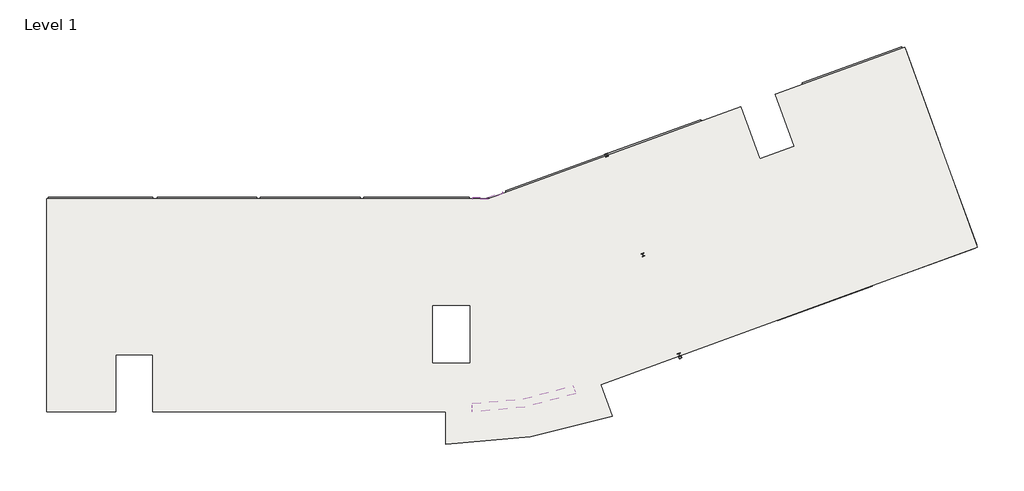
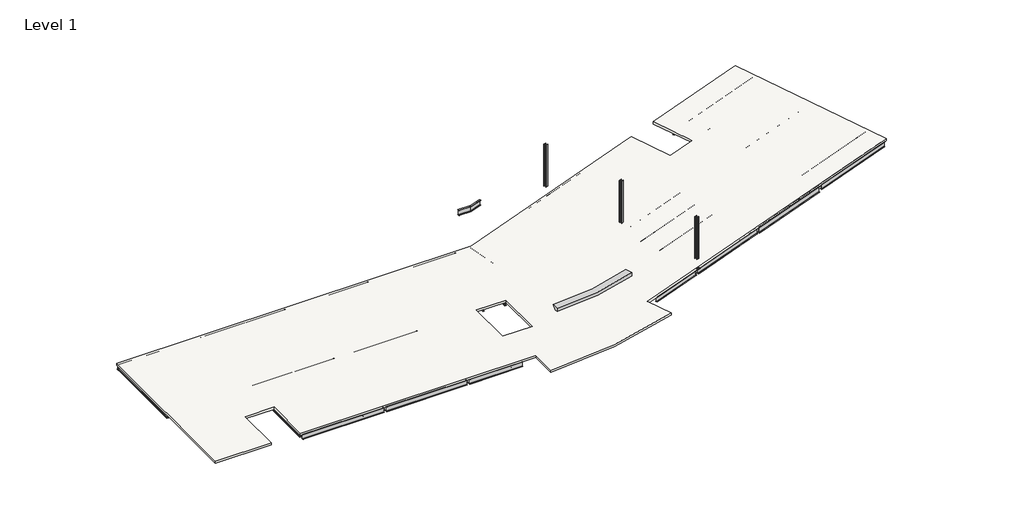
# One storey: 87 beams, 3 columns, 1 proxy, 1 slab.
"""IFC4 building model written with IfcOpenShell, lengths in millimetres."""

from ifc_helpers import new_model, si_unit, point, frame, frame_2d, origin, place, context, project, spatial, polyline, circle_curve, trimmed, segment, composite_curve, outline, extrude, transform, mapped, element, save
from ifc_brep_helpers import plane_surface, cylinder_surface, revolved_surface, advanced_brep
from components import beam_e63ae445, l_unequal_leg_angles_l150x75x12_5957f89b, ub_universal_beams_ub305x127x37_14baedf7, ub_universal_beams_ub305x127x37_f823aa85, ub_universal_beams_ub305x127x37_cdbcbb51, ub_universal_beams_ub305x127x37_8d1efc97, ub_universal_beams_ub305x127x37_2b7a043a, ub_universal_beams_ub305x127x37_8d2b0bf5, ub_universal_beams_ub305x127x37_777f85ab, ub_universal_beams_ub305x127x37_60794b88, ub_universal_beams_ub305x127x37_54dd217e, ub_universal_beams_ub305x127x37_7b5c5eb2, ub_universal_beams_ub305x127x37_99f87efb, ub_universal_beams_ub305x127x37_95b6a02e, ub_universal_beams_ub457x152x67_de37d5a7, ub_universal_beams_ub457x152x67_a95554c7, ub_universal_beams_ub457x152x67_885cc86f, ub_universal_beams_ub457x152x67_c84566a2, ub_universal_beams_ub457x152x67_4841b023, ub_universal_beams_ub457x152x67_bb2d3bd6, ub_universal_beams_ub457x152x67_20791346, ub_universal_beams_ub457x152x67_59459dd6, ub_universal_beams_ub457x152x67_568b5c51, ub_universal_beams_ub457x152x67_feb0265b, ub_universal_beams_ub457x152x67_78ad538f, ub_universal_beams_ub457x152x67_801fcbf0, ub_universal_beams_ub457x152x67_7192e0ee, ub_universal_beams_ub457x152x67_e0a47d06, ub_universal_beams_ub457x152x67_f5dc209c, ub_universal_beams_ub457x152x67_f862a4b8, ub_universal_beams_ub457x152x67_21f5ef47, ub_universal_beams_ub457x152x67_7b4bcd9a, ub_universal_beams_ub457x152x67_37de3949, ub_universal_beams_ub457x152x67_656765b2, ub_universal_beams_ub457x152x67_43212cfb, ub_universal_beams_ub457x152x67_d270934e, ub_universal_beams_ub457x152x67_e915e172, ub_universal_beams_ub457x152x67_6f79b88a, ub_universal_beams_ub457x152x67_f563fb2c, ub_universal_beams_ub457x152x67_5d27a3bd, ub_universal_beams_ub457x152x67_54a4210b, ub_universal_beams_ub457x152x67_30e2d671, ub_universal_beams_ub533x210x82_0fc11a2d, uc_universal_columns_column_uc203x203x71_d477e635

model = new_model("IFC4")

# Units and contexts
model_context = context("Model", 3, world=origin())
ifc_project = project(units=[si_unit("LENGTHUNIT", "METRE", prefix="MILLI")], contexts=[model_context])

# Site, building, storey
site = spatial("IfcSite", under=ifc_project)
building = spatial("IfcBuilding", under=site)
storey = spatial("IfcBuildingStorey", under=building, Name="Level 1", Elevation=3695.0)

# Beams
placement = place(None, origin())
beam_shape = beam_e63ae445(model_context)
element("IfcBeam", 1, ObjectType="Cranked Beam B2 : Cranked Beam B1", at=placement, inside=storey, context=model_context, shape_type="MappedRepresentation", body=[
    mapped(beam_shape, transform((0.0, 0.0, 0.0), x_axis=(1.0, 0.0, 0.0), y_axis=(0.0, 1.0, 0.0), z_axis=(0.0, 0.0, 1.0))),
])
l_unequal_leg_angles_l150x75x12_shape = l_unequal_leg_angles_l150x75x12_5957f89b(model_context)
element("IfcBeam", 2, ObjectType="L-Unequal Leg Angles : L150x75x12", at=placement, inside=storey, context=model_context, shape_type="MappedRepresentation", body=[
    mapped(l_unequal_leg_angles_l150x75x12_shape, transform((45120.9767448, 4161.3796452, 3850.0), x_axis=(0.9396926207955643, 0.3420201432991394, 0.0), y_axis=(0.0, 0.0, 1.0), z_axis=(0.3420201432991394, -0.9396926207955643, 0.0))),
])
ub_universal_beams_ub305x127x37_shape = ub_universal_beams_ub305x127x37_14baedf7(model_context)
element("IfcBeam", 3, ObjectType="UB-Universal Beams : UB305x127x37", at=placement, inside=storey, context=model_context, shape_type="MappedRepresentation", body=[
    mapped(ub_universal_beams_ub305x127x37_shape, transform((2457.6125027, 11575.7000004, 3542.8), x_axis=(0.0, 1.0, 0.0), y_axis=(-1.0, 0.0, 0.0), z_axis=(0.0, 0.0, 1.0))),
])
element("IfcBeam", 4, ObjectType="UB-Universal Beams : UB305x127x37", at=placement, inside=storey, context=model_context, shape_type="MappedRepresentation", body=[
    mapped(ub_universal_beams_ub305x127x37_shape, transform((4301.1250026, 11575.7000004, 3542.8), x_axis=(0.0, 1.0, 0.0), y_axis=(-1.0, 0.0, 0.0), z_axis=(0.0, 0.0, 1.0))),
])
element("IfcBeam", 5, ObjectType="UB-Universal Beams : UB305x127x37", at=placement, inside=storey, context=model_context, shape_type="MappedRepresentation", body=[
    mapped(ub_universal_beams_ub305x127x37_shape, transform((6144.6375025, 11575.7000005, 3542.8), x_axis=(0.0, 1.0, 0.0), y_axis=(-1.0, 0.0, 0.0), z_axis=(0.0, 0.0, 1.0))),
])
ub_universal_beams_ub305x127x37_2_shape = ub_universal_beams_ub305x127x37_f823aa85(model_context)
element("IfcBeam", 6, ObjectType="UB-Universal Beams : UB305x127x37", at=placement, inside=storey, context=model_context, shape_type="MappedRepresentation", body=[
    mapped(ub_universal_beams_ub305x127x37_2_shape, transform((9831.6625024, 4113.2000005, 3542.8), x_axis=(0.0, 1.0, 0.0), y_axis=(-1.0, 0.0, 0.0), z_axis=(0.0, 0.0, 1.0))),
])
element("IfcBeam", 7, ObjectType="UB-Universal Beams : UB305x127x37", at=placement, inside=storey, context=model_context, shape_type="MappedRepresentation", body=[
    mapped(ub_universal_beams_ub305x127x37_2_shape, transform((11675.1750024, 4113.2000005, 3542.8), x_axis=(0.0, 1.0, 0.0), y_axis=(-1.0, 0.0, 0.0), z_axis=(0.0, 0.0, 1.0))),
])
element("IfcBeam", 8, ObjectType="UB-Universal Beams : UB305x127x37", at=placement, inside=storey, context=model_context, shape_type="MappedRepresentation", body=[
    mapped(ub_universal_beams_ub305x127x37_2_shape, transform((13518.6875023, 4113.2000005, 3542.8), x_axis=(0.0, 1.0, 0.0), y_axis=(-1.0, 0.0, 0.0), z_axis=(0.0, 0.0, 1.0))),
])
element("IfcBeam", 9, ObjectType="UB-Universal Beams : UB305x127x37", at=placement, inside=storey, context=model_context, shape_type="MappedRepresentation", body=[
    mapped(ub_universal_beams_ub305x127x37_2_shape, transform((9887.2000022, 11613.2000005, 3542.8), x_axis=(0.0, 1.0, 0.0), y_axis=(-1.0, 0.0, 0.0), z_axis=(0.0, 0.0, 1.0))),
])
element("IfcBeam", 10, ObjectType="UB-Universal Beams : UB305x127x37", at=placement, inside=storey, context=model_context, shape_type="MappedRepresentation", body=[
    mapped(ub_universal_beams_ub305x127x37_2_shape, transform((11712.2000022, 11613.2000005, 3542.8), x_axis=(0.0, 1.0, 0.0), y_axis=(-1.0, 0.0, 0.0), z_axis=(0.0, 0.0, 1.0))),
])
element("IfcBeam", 11, ObjectType="UB-Universal Beams : UB305x127x37", at=placement, inside=storey, context=model_context, shape_type="MappedRepresentation", body=[
    mapped(ub_universal_beams_ub305x127x37_2_shape, transform((13537.2000023, 11613.2000005, 3542.8), x_axis=(0.0, 1.0, 0.0), y_axis=(-1.0, 0.0, 0.0), z_axis=(0.0, 0.0, 1.0))),
])
element("IfcBeam", 12, ObjectType="UB-Universal Beams : UB305x127x37", at=placement, inside=storey, context=model_context, shape_type="MappedRepresentation", body=[
    mapped(ub_universal_beams_ub305x127x37_2_shape, transform((17187.2000023, 11613.2000005, 3542.8), x_axis=(0.0, 1.0, 0.0), y_axis=(-1.0, 0.0, 0.0), z_axis=(0.0, 0.0, 1.0))),
])
element("IfcBeam", 13, ObjectType="UB-Universal Beams : UB305x127x37", at=placement, inside=storey, context=model_context, shape_type="MappedRepresentation", body=[
    mapped(ub_universal_beams_ub305x127x37_2_shape, transform((19012.2000023, 11613.2000005, 3542.8), x_axis=(0.0, 1.0, 0.0), y_axis=(-1.0, 0.0, 0.0), z_axis=(0.0, 0.0, 1.0))),
])
element("IfcBeam", 14, ObjectType="UB-Universal Beams : UB305x127x37", at=placement, inside=storey, context=model_context, shape_type="MappedRepresentation", body=[
    mapped(ub_universal_beams_ub305x127x37_2_shape, transform((20837.2000022, 11613.2000005, 3542.8), x_axis=(0.0, 1.0, 0.0), y_axis=(-1.0, 0.0, 0.0), z_axis=(0.0, 0.0, 1.0))),
])
element("IfcBeam", 15, ObjectType="UB-Universal Beams : UB305x127x37", at=placement, inside=storey, context=model_context, shape_type="MappedRepresentation", body=[
    mapped(ub_universal_beams_ub305x127x37_2_shape, transform((24587.2000022, 11613.2000005, 3542.8), x_axis=(0.0, 1.0, 0.0), y_axis=(-1.0, 0.0, 0.0), z_axis=(0.0, 0.0, 1.0))),
])
element("IfcBeam", 16, ObjectType="UB-Universal Beams : UB305x127x37", at=placement, inside=storey, context=model_context, shape_type="MappedRepresentation", body=[
    mapped(ub_universal_beams_ub305x127x37_2_shape, transform((26512.2000022, 11613.2000005, 3542.8), x_axis=(0.0, 1.0, 0.0), y_axis=(-1.0, 0.0, 0.0), z_axis=(0.0, 0.0, 1.0))),
])
element("IfcBeam", 17, ObjectType="UB-Universal Beams : UB305x127x37", at=placement, inside=storey, context=model_context, shape_type="MappedRepresentation", body=[
    mapped(ub_universal_beams_ub305x127x37_2_shape, transform((17187.2000022, 4113.2000005, 3542.8), x_axis=(0.0, 1.0, 0.0), y_axis=(-1.0, 0.0, 0.0), z_axis=(0.0, 0.0, 1.0))),
])
element("IfcBeam", 18, ObjectType="UB-Universal Beams : UB305x127x37", at=placement, inside=storey, context=model_context, shape_type="MappedRepresentation", body=[
    mapped(ub_universal_beams_ub305x127x37_2_shape, transform((19012.2000022, 4113.2000005, 3542.8), x_axis=(0.0, 1.0, 0.0), y_axis=(-1.0, 0.0, 0.0), z_axis=(0.0, 0.0, 1.0))),
])
element("IfcBeam", 19, ObjectType="UB-Universal Beams : UB305x127x37", at=placement, inside=storey, context=model_context, shape_type="MappedRepresentation", body=[
    mapped(ub_universal_beams_ub305x127x37_2_shape, transform((20837.2000022, 4113.2000005, 3542.8), x_axis=(0.0, 1.0, 0.0), y_axis=(-1.0, 0.0, 0.0), z_axis=(0.0, 0.0, 1.0))),
])
element("IfcBeam", 20, ObjectType="UB-Universal Beams : UB305x127x37", at=placement, inside=storey, context=model_context, shape_type="MappedRepresentation", body=[
    mapped(ub_universal_beams_ub305x127x37_2_shape, transform((24587.2000022, 4113.2000004, 3542.8), x_axis=(0.0, 1.0, 0.0), y_axis=(-1.0, 0.0, 0.0), z_axis=(0.0, 0.0, 1.0))),
])
element("IfcBeam", 21, ObjectType="UB-Universal Beams : UB305x127x37", at=placement, inside=storey, context=model_context, shape_type="MappedRepresentation", body=[
    mapped(ub_universal_beams_ub305x127x37_2_shape, transform((26512.2000022, 4113.2000004, 3542.8), x_axis=(0.0, 1.0, 0.0), y_axis=(-1.0, 0.0, 0.0), z_axis=(0.0, 0.0, 1.0))),
])
element("IfcBeam", 22, ObjectType="UB-Universal Beams : UB305x127x37", at=placement, inside=storey, context=model_context, shape_type="MappedRepresentation", body=[
    mapped(ub_universal_beams_ub305x127x37_2_shape, transform((39409.0148654, 14226.6858637, 3542.8), x_axis=(0.34202014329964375, -0.9396926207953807, 0.0), y_axis=(0.9396926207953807, 0.34202014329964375, 0.0), z_axis=(0.0, 0.0, 1.0))),
])
element("IfcBeam", 23, ObjectType="UB-Universal Beams : UB305x127x37", at=placement, inside=storey, context=model_context, shape_type="MappedRepresentation", body=[
    mapped(ub_universal_beams_ub305x127x37_2_shape, transform((37600.1065704, 13568.2970878, 3542.8), x_axis=(0.34202014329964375, -0.9396926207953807, 0.0), y_axis=(0.9396926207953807, 0.34202014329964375, 0.0), z_axis=(0.0, 0.0, 1.0))),
])
element("IfcBeam", 24, ObjectType="UB-Universal Beams : UB305x127x37", at=placement, inside=storey, context=model_context, shape_type="MappedRepresentation", body=[
    mapped(ub_universal_beams_ub305x127x37_2_shape, transform((42915.2429568, 15502.8485233, 3542.8), x_axis=(-0.3420201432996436, 0.9396926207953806, 0.0), y_axis=(-0.9396926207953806, -0.3420201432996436, 0.0), z_axis=(0.0, 0.0, 1.0))),
])
element("IfcBeam", 25, ObjectType="UB-Universal Beams : UB305x127x37", at=placement, inside=storey, context=model_context, shape_type="MappedRepresentation", body=[
    mapped(ub_universal_beams_ub305x127x37_2_shape, transform((44612.5627531, 16120.6224071, 3542.8), x_axis=(-0.34202014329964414, 0.9396926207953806, 0.0), y_axis=(-0.9396926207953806, -0.34202014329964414, 0.0), z_axis=(0.0, 0.0, 1.0))),
])
element("IfcBeam", 26, ObjectType="UB-Universal Beams : UB305x127x37", at=placement, inside=storey, context=model_context, shape_type="MappedRepresentation", body=[
    mapped(ub_universal_beams_ub305x127x37_2_shape, transform((46309.8825494, 16738.396291, 3542.8), x_axis=(-0.34202014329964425, 0.9396926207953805, 0.0), y_axis=(-0.9396926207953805, -0.34202014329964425, 0.0), z_axis=(0.0, 0.0, 1.0))),
])
ub_universal_beams_ub305x127x37_3_shape = ub_universal_beams_ub305x127x37_cdbcbb51(model_context)
element("IfcBeam", 27, ObjectType="UB-Universal Beams : UB305x127x37", at=placement, inside=storey, context=model_context, shape_type="MappedRepresentation", body=[
    mapped(ub_universal_beams_ub305x127x37_3_shape, transform((28437.2000022, 11613.2000005, 3542.8), x_axis=(0.0, 1.0, 0.0), y_axis=(-1.0, 0.0, 0.0), z_axis=(0.0, 0.0, 1.0))),
])
ub_universal_beams_ub305x127x37_4_shape = ub_universal_beams_ub305x127x37_8d1efc97(model_context)
element("IfcBeam", 28, ObjectType="UB-Universal Beams : UB305x127x37", at=placement, inside=storey, context=model_context, shape_type="MappedRepresentation", body=[
    mapped(ub_universal_beams_ub305x127x37_4_shape, transform((35791.1982754, 12909.908312, 3542.8), x_axis=(0.3420201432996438, -0.9396926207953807, 0.0), y_axis=(0.9396926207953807, 0.3420201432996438, 0.0), z_axis=(0.0, 0.0, 1.0))),
])
ub_universal_beams_ub305x127x37_5_shape = ub_universal_beams_ub305x127x37_2b7a043a(model_context)
element("IfcBeam", 29, ObjectType="UB-Universal Beams : UB305x127x37", at=placement, inside=storey, context=model_context, shape_type="MappedRepresentation", body=[
    mapped(ub_universal_beams_ub305x127x37_5_shape, transform((42122.1150828, 5237.5069684, 3542.8), x_axis=(-0.939692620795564, -0.3420201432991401, 0.0), y_axis=(0.3420201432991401, -0.939692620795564, 0.0), z_axis=(0.0, 0.0, 1.0))),
])
element("IfcBeam", 30, ObjectType="UB-Universal Beams : UB305x127x37", at=placement, inside=storey, context=model_context, shape_type="MappedRepresentation", body=[
    mapped(ub_universal_beams_ub305x127x37_5_shape, transform((41480.8273141, 6999.4306323, 3542.8), x_axis=(-0.9396926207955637, -0.3420201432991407, 0.0), y_axis=(0.3420201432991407, -0.9396926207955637, 0.0), z_axis=(0.0, 0.0, 1.0))),
])
element("IfcBeam", 31, ObjectType="UB-Universal Beams : UB305x127x37", at=placement, inside=storey, context=model_context, shape_type="MappedRepresentation", body=[
    mapped(ub_universal_beams_ub305x127x37_5_shape, transform((40839.5395455, 8761.3542963, 3542.8), x_axis=(-0.939692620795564, -0.3420201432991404, 0.0), y_axis=(0.3420201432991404, -0.939692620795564, 0.0), z_axis=(0.0, 0.0, 1.0))),
])
ub_universal_beams_ub305x127x37_6_shape = ub_universal_beams_ub305x127x37_8d2b0bf5(model_context)
element("IfcBeam", 32, ObjectType="UB-Universal Beams : UB305x127x37", at=placement, inside=storey, context=model_context, shape_type="MappedRepresentation", body=[
    mapped(ub_universal_beams_ub305x127x37_6_shape, transform((46536.4260592, 10834.8514152, 3542.8), x_axis=(0.9396926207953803, 0.342020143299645, 0.0), y_axis=(-0.342020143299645, 0.9396926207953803, 0.0), z_axis=(0.0, 0.0, 1.0))),
])
element("IfcBeam", 33, ObjectType="UB-Universal Beams : UB305x127x37", at=placement, inside=storey, context=model_context, shape_type="MappedRepresentation", body=[
    mapped(ub_universal_beams_ub305x127x37_6_shape, transform((47177.7138279, 9072.9277512, 3542.8), x_axis=(0.9396926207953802, 0.34202014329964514, 0.0), y_axis=(-0.34202014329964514, 0.9396926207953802, 0.0), z_axis=(0.0, 0.0, 1.0))),
])
element("IfcBeam", 34, ObjectType="UB-Universal Beams : UB305x127x37", at=placement, inside=storey, context=model_context, shape_type="MappedRepresentation", body=[
    mapped(ub_universal_beams_ub305x127x37_6_shape, transform((47819.0015966, 7311.0040872, 3542.8), x_axis=(0.9396926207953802, 0.3420201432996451, 0.0), y_axis=(-0.3420201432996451, 0.9396926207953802, 0.0), z_axis=(0.0, 0.0, 1.0))),
])
ub_universal_beams_ub305x127x37_7_shape = ub_universal_beams_ub305x127x37_777f85ab(model_context)
element("IfcBeam", 35, ObjectType="UB-Universal Beams : UB305x127x37", at=placement, inside=storey, context=model_context, shape_type="MappedRepresentation", body=[
    mapped(ub_universal_beams_ub305x127x37_7_shape, transform((60479.1153202, 15909.5752914, 3542.8), x_axis=(0.9396926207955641, 0.34202014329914, 0.0), y_axis=(-0.34202014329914, 0.9396926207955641, 0.0), z_axis=(0.0, 0.0, 1.0))),
])
element("IfcBeam", 36, ObjectType="UB-Universal Beams : UB305x127x37", at=placement, inside=storey, context=model_context, shape_type="MappedRepresentation", body=[
    mapped(ub_universal_beams_ub305x127x37_7_shape, transform((61120.4030889, 14147.6516274, 3542.8), x_axis=(0.9396926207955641, 0.34202014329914, 0.0), y_axis=(-0.34202014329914, 0.9396926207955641, 0.0), z_axis=(0.0, 0.0, 1.0))),
])
element("IfcBeam", 37, ObjectType="UB-Universal Beams : UB305x127x37", at=placement, inside=storey, context=model_context, shape_type="MappedRepresentation", body=[
    mapped(ub_universal_beams_ub305x127x37_7_shape, transform((61761.6908576, 12385.7279634, 3542.8), x_axis=(0.9396926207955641, 0.3420201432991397, 0.0), y_axis=(-0.3420201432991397, 0.9396926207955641, 0.0), z_axis=(0.0, 0.0, 1.0))),
])
element("IfcBeam", 38, ObjectType="UB-Universal Beams : UB305x127x37", at=placement, inside=storey, context=model_context, shape_type="MappedRepresentation", body=[
    mapped(ub_universal_beams_ub305x127x37_7_shape, transform((57913.9642455, 22957.2699473, 3542.8), x_axis=(0.9396926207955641, 0.3420201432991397, 0.0), y_axis=(-0.3420201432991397, 0.9396926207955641, 0.0), z_axis=(0.0, 0.0, 1.0))),
])
element("IfcBeam", 39, ObjectType="UB-Universal Beams : UB305x127x37", at=placement, inside=storey, context=model_context, shape_type="MappedRepresentation", body=[
    mapped(ub_universal_beams_ub305x127x37_7_shape, transform((58555.2520142, 21195.3462833, 3542.8), x_axis=(0.9396926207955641, 0.3420201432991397, 0.0), y_axis=(-0.3420201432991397, 0.9396926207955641, 0.0), z_axis=(0.0, 0.0, 1.0))),
])
element("IfcBeam", 40, ObjectType="UB-Universal Beams : UB305x127x37", at=placement, inside=storey, context=model_context, shape_type="MappedRepresentation", body=[
    mapped(ub_universal_beams_ub305x127x37_7_shape, transform((59196.5397829, 19433.4226193, 3542.8), x_axis=(0.9396926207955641, 0.3420201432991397, 0.0), y_axis=(-0.3420201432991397, 0.9396926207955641, 0.0), z_axis=(0.0, 0.0, 1.0))),
])
ub_universal_beams_ub305x127x37_8_shape = ub_universal_beams_ub305x127x37_60794b88(model_context)
element("IfcBeam", 41, ObjectType="UB-Universal Beams : UB305x127x37", at=placement, inside=storey, context=model_context, shape_type="MappedRepresentation", body=[
    mapped(ub_universal_beams_ub305x127x37_8_shape, transform((53431.3248942, 21325.7226526, 3542.8), x_axis=(-0.939692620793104, -0.34202014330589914, 0.0), y_axis=(0.34202014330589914, -0.939692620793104, 0.0), z_axis=(0.0, 0.0, 1.0))),
])
element("IfcBeam", 42, ObjectType="UB-Universal Beams : UB305x127x37", at=placement, inside=storey, context=model_context, shape_type="MappedRepresentation", body=[
    mapped(ub_universal_beams_ub305x127x37_8_shape, transform((54072.6126629, 19563.7989886, 3542.8), x_axis=(-0.939692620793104, -0.3420201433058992, 0.0), y_axis=(0.3420201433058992, -0.939692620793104, 0.0), z_axis=(0.0, 0.0, 1.0))),
])
element("IfcBeam", 43, ObjectType="UB-Universal Beams : UB305x127x37", at=placement, inside=storey, context=model_context, shape_type="MappedRepresentation", body=[
    mapped(ub_universal_beams_ub305x127x37_8_shape, transform((54713.9004316, 17801.8753247, 3542.8), x_axis=(-0.939692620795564, -0.34202014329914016, 0.0), y_axis=(0.34202014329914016, -0.939692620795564, 0.0), z_axis=(0.0, 0.0, 1.0))),
])
ub_universal_beams_ub305x127x37_9_shape = ub_universal_beams_ub305x127x37_54dd217e(model_context)
element("IfcBeam", 44, ObjectType="UB-Universal Beams : UB305x127x37", at=placement, inside=storey, context=model_context, shape_type="MappedRepresentation", body=[
    mapped(ub_universal_beams_ub305x127x37_9_shape, transform((7988.1500025, 7863.2000005, 3542.8), x_axis=(0.0, 1.0, 0.0), y_axis=(-1.0, 0.0, 0.0), z_axis=(0.0, 0.0, 1.0))),
])
ub_universal_beams_ub305x127x37_10_shape = ub_universal_beams_ub305x127x37_7b5c5eb2(model_context)
element("IfcBeam", 45, ObjectType="UB-Universal Beams : UB305x127x37", at=placement, inside=storey, context=model_context, shape_type="MappedRepresentation", body=[
    mapped(ub_universal_beams_ub305x127x37_10_shape, transform((52185.7228693, 11321.365084, 3542.8), x_axis=(0.9396926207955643, 0.3420201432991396, 0.0), y_axis=(-0.3420201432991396, 0.9396926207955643, 0.0), z_axis=(0.0, 0.0, 1.0))),
])
element("IfcBeam", 46, ObjectType="UB-Universal Beams : UB305x127x37", at=placement, inside=storey, context=model_context, shape_type="MappedRepresentation", body=[
    mapped(ub_universal_beams_ub305x127x37_10_shape, transform((51681.2431579, 12707.4116997, 3542.8), x_axis=(0.9396926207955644, 0.34202014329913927, 0.0), y_axis=(-0.34202014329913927, 0.9396926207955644, 0.0), z_axis=(0.0, 0.0, 1.0))),
])
ub_universal_beams_ub305x127x37_11_shape = ub_universal_beams_ub305x127x37_99f87efb(model_context)
element("IfcBeam", 47, ObjectType="UB-Universal Beams : UB305x127x37", at=placement, inside=storey, context=model_context, shape_type="MappedRepresentation", body=[
    mapped(ub_universal_beams_ub305x127x37_11_shape, transform((55650.8394085, 12582.5643624, 3542.8), x_axis=(0.939692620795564, 0.34202014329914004, 0.0), y_axis=(-0.34202014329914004, 0.939692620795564, 0.0), z_axis=(0.0, 0.0, 1.0))),
])
element("IfcBeam", 48, ObjectType="UB-Universal Beams : UB305x127x37", at=placement, inside=storey, context=model_context, shape_type="MappedRepresentation", body=[
    mapped(ub_universal_beams_ub305x127x37_11_shape, transform((56300.6776807, 10797.1483829, 3542.8), x_axis=(0.9396926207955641, 0.3420201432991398, 0.0), y_axis=(-0.3420201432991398, 0.9396926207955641, 0.0), z_axis=(0.0, 0.0, 1.0))),
])
element("IfcBeam", 49, ObjectType="UB-Universal Beams : UB305x127x37", at=placement, inside=storey, context=model_context, shape_type="MappedRepresentation", body=[
    mapped(ub_universal_beams_ub305x127x37_11_shape, transform((55146.3596971, 13968.6109781, 3542.8), x_axis=(0.9396926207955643, 0.34202014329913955, 0.0), y_axis=(-0.34202014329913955, 0.9396926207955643, 0.0), z_axis=(0.0, 0.0, 1.0))),
])
ub_universal_beams_ub305x127x37_12_shape = ub_universal_beams_ub305x127x37_95b6a02e(model_context)
element("IfcBeam", 50, ObjectType="UB-Universal Beams : UB305x127x37", at=placement, inside=storey, context=model_context, shape_type="MappedRepresentation", body=[
    mapped(ub_universal_beams_ub305x127x37_12_shape, transform((52835.5611416, 9535.9491045, 3542.8), x_axis=(-0.9396926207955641, -0.34202014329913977, 0.0), y_axis=(0.34202014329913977, -0.9396926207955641, 0.0), z_axis=(0.0, 0.0, 1.0))),
])
ub_universal_beams_ub457x152x67_shape = ub_universal_beams_ub457x152x67_de37d5a7(model_context)
element("IfcBeam", 51, ObjectType="UB-Universal Beams : UB457x152x67", at=placement, inside=storey, context=model_context, shape_type="MappedRepresentation", body=[
    mapped(ub_universal_beams_ub457x152x67_shape, transform((26512.2000022, 15363.2000005, 3466.0), x_axis=(1.0, 0.0, 0.0), y_axis=(0.0, 1.0, 0.0), z_axis=(0.0, 0.0, 1.0))),
])
ub_universal_beams_ub457x152x67_2_shape = ub_universal_beams_ub457x152x67_a95554c7(model_context)
element("IfcBeam", 52, ObjectType="UB-Universal Beams : UB457x152x67", at=placement, inside=storey, context=model_context, shape_type="MappedRepresentation", body=[
    mapped(ub_universal_beams_ub457x152x67_2_shape, transform((19012.2000023, 15363.2000005, 3466.0), x_axis=(1.0, 0.0, 0.0), y_axis=(0.0, 1.0, 0.0), z_axis=(0.0, 0.0, 1.0))),
])
element("IfcBeam", 53, ObjectType="UB-Universal Beams : UB457x152x67", at=placement, inside=storey, context=model_context, shape_type="MappedRepresentation", body=[
    mapped(ub_universal_beams_ub457x152x67_2_shape, transform((19012.2000022, 363.2000005, 3466.0), x_axis=(1.0, 0.0, 0.0), y_axis=(0.0, 1.0, 0.0), z_axis=(0.0, 0.0, 1.0))),
])
ub_universal_beams_ub457x152x67_3_shape = ub_universal_beams_ub457x152x67_885cc86f(model_context)
element("IfcBeam", 54, ObjectType="UB-Universal Beams : UB457x152x67", at=placement, inside=storey, context=model_context, shape_type="MappedRepresentation", body=[
    mapped(ub_universal_beams_ub457x152x67_3_shape, transform((11674.7000023, 363.2000005, 3466.0), x_axis=(-1.0, 0.0, 0.0), y_axis=(0.0, -1.0, 0.0), z_axis=(0.0, 0.0, 1.0))),
])
ub_universal_beams_ub457x152x67_4_shape = ub_universal_beams_ub457x152x67_c84566a2(model_context)
element("IfcBeam", 55, ObjectType="UB-Universal Beams : UB457x152x67", at=placement, inside=storey, context=model_context, shape_type="MappedRepresentation", body=[
    mapped(ub_universal_beams_ub457x152x67_4_shape, transform((19012.2000023, 7863.2000004, 3466.0), x_axis=(1.0, 0.0, 0.0), y_axis=(0.0, 1.0, 0.0), z_axis=(0.0, 0.0, 1.0))),
])
ub_universal_beams_ub457x152x67_5_shape = ub_universal_beams_ub457x152x67_4841b023(model_context)
element("IfcBeam", 56, ObjectType="UB-Universal Beams : UB457x152x67", at=placement, inside=storey, context=model_context, shape_type="MappedRepresentation", body=[
    mapped(ub_universal_beams_ub457x152x67_5_shape, transform((25112.2000025, 7863.2000004, 3466.0), x_axis=(1.0, 0.0, 0.0), y_axis=(0.0, 1.0, 0.0), z_axis=(0.0, 0.0, 1.0))),
])
ub_universal_beams_ub457x152x67_6_shape = ub_universal_beams_ub457x152x67_bb2d3bd6(model_context)
element("IfcBeam", 57, ObjectType="UB-Universal Beams : UB457x152x67", at=placement, inside=storey, context=model_context, shape_type="MappedRepresentation", body=[
    mapped(ub_universal_beams_ub457x152x67_6_shape, transform((614.1000027, 11575.7000004, 3466.0), x_axis=(0.0, 1.0, 0.0), y_axis=(-1.0, 0.0, 0.0), z_axis=(0.0, 0.0, 1.0))),
])
ub_universal_beams_ub457x152x67_7_shape = ub_universal_beams_ub457x152x67_20791346(model_context)
element("IfcBeam", 58, ObjectType="UB-Universal Beams : UB457x152x67", at=placement, inside=storey, context=model_context, shape_type="MappedRepresentation", body=[
    mapped(ub_universal_beams_ub457x152x67_7_shape, transform((25112.2000025, 363.2000005, 3466.0), x_axis=(1.0, 0.0, 0.0), y_axis=(0.0, 1.0, 0.0), z_axis=(0.0, 0.0, 1.0))),
])
ub_universal_beams_ub457x152x67_8_shape = ub_universal_beams_ub457x152x67_59459dd6(model_context)
element("IfcBeam", 59, ObjectType="UB-Universal Beams : UB457x152x67", at=placement, inside=storey, context=model_context, shape_type="MappedRepresentation", body=[
    mapped(ub_universal_beams_ub457x152x67_8_shape, transform((15362.2000023, 4113.2000005, 3466.0), x_axis=(0.0, 1.0, 0.0), y_axis=(-1.0, 0.0, 0.0), z_axis=(0.0, 0.0, 1.0))),
])
element("IfcBeam", 60, ObjectType="UB-Universal Beams : UB457x152x67", at=placement, inside=storey, context=model_context, shape_type="MappedRepresentation", body=[
    mapped(ub_universal_beams_ub457x152x67_8_shape, transform((22662.2000022, 4113.2000005, 3466.0), x_axis=(0.0, 1.0, 0.0), y_axis=(-1.0, 0.0, 0.0), z_axis=(0.0, 0.0, 1.0))),
])
ub_universal_beams_ub457x152x67_9_shape = ub_universal_beams_ub457x152x67_568b5c51(model_context)
element("IfcBeam", 61, ObjectType="UB-Universal Beams : UB457x152x67", at=placement, inside=storey, context=model_context, shape_type="MappedRepresentation", body=[
    mapped(ub_universal_beams_ub457x152x67_9_shape, transform((15362.2000023, 11613.2000005, 3466.0), x_axis=(0.0, 1.0, 0.0), y_axis=(-1.0, 0.0, 0.0), z_axis=(0.0, 0.0, 1.0))),
])
element("IfcBeam", 62, ObjectType="UB-Universal Beams : UB457x152x67", at=placement, inside=storey, context=model_context, shape_type="MappedRepresentation", body=[
    mapped(ub_universal_beams_ub457x152x67_9_shape, transform((22662.2000022, 11613.2000005, 3466.0), x_axis=(0.0, 1.0, 0.0), y_axis=(-1.0, 0.0, 0.0), z_axis=(0.0, 0.0, 1.0))),
])
ub_universal_beams_ub457x152x67_10_shape = ub_universal_beams_ub457x152x67_feb0265b(model_context)
element("IfcBeam", 63, ObjectType="UB-Universal Beams : UB457x152x67", at=placement, inside=storey, context=model_context, shape_type="MappedRepresentation", body=[
    mapped(ub_universal_beams_ub457x152x67_10_shape, transform((32191.7898055, 11821.5156209, 3466.0), x_axis=(0.173648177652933, -0.9848077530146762, 0.0), y_axis=(0.9848077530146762, 0.173648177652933, 0.0), z_axis=(0.0, 0.0, 1.0))),
])
ub_universal_beams_ub457x152x67_11_shape = ub_universal_beams_ub457x152x67_78ad538f(model_context)
element("IfcBeam", 64, ObjectType="UB-Universal Beams : UB457x152x67", at=placement, inside=storey, context=model_context, shape_type="MappedRepresentation", body=[
    mapped(ub_universal_beams_ub457x152x67_11_shape, transform((31317.5755278, 11361.2273115, 3466.0), x_axis=(1.0, 0.0, 0.0), y_axis=(0.0, 1.0, 0.0), z_axis=(0.0, 0.0, 1.0))),
])
ub_universal_beams_ub457x152x67_12_shape = ub_universal_beams_ub457x152x67_801fcbf0(model_context)
element("IfcBeam", 65, ObjectType="UB-Universal Beams : UB457x152x67", at=placement, inside=storey, context=model_context, shape_type="MappedRepresentation", body=[
    mapped(ub_universal_beams_ub457x152x67_12_shape, transform((33170.7103845, 11687.9849855, 3466.0), x_axis=(0.9396926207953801, 0.3420201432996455, 0.0), y_axis=(-0.3420201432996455, 0.9396926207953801, 0.0), z_axis=(0.0, 0.0, 1.0))),
])
ub_universal_beams_ub457x152x67_13_shape = ub_universal_beams_ub457x152x67_7192e0ee(model_context)
element("IfcBeam", 66, ObjectType="UB-Universal Beams : UB457x152x67", at=placement, inside=storey, context=model_context, shape_type="MappedRepresentation", body=[
    mapped(ub_universal_beams_ub457x152x67_13_shape, transform((43329.9872158, 19644.4697351, 3466.0), x_axis=(0.9396926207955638, 0.3420201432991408, 0.0), y_axis=(-0.3420201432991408, 0.9396926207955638, 0.0), z_axis=(0.0, 0.0, 1.0))),
])
element("IfcBeam", 67, ObjectType="UB-Universal Beams : UB457x152x67", at=placement, inside=storey, context=model_context, shape_type="MappedRepresentation", body=[
    mapped(ub_universal_beams_ub457x152x67_13_shape, transform((45895.1382905, 12596.7750792, 3466.0), x_axis=(0.9396926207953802, 0.34202014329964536, 0.0), y_axis=(-0.34202014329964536, 0.9396926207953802, 0.0), z_axis=(0.0, 0.0, 1.0))),
])
element("IfcBeam", 68, ObjectType="UB-Universal Beams : UB457x152x67", at=placement, inside=storey, context=model_context, shape_type="MappedRepresentation", body=[
    mapped(ub_universal_beams_ub457x152x67_13_shape, transform((48460.2893652, 5549.0804232, 3466.0), x_axis=(0.9396926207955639, 0.3420201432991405, 0.0), y_axis=(-0.3420201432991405, 0.9396926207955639, 0.0), z_axis=(0.0, 0.0, 1.0))),
])
ub_universal_beams_ub457x152x67_14_shape = ub_universal_beams_ub457x152x67_e0a47d06(model_context)
element("IfcBeam", 69, ObjectType="UB-Universal Beams : UB457x152x67", at=placement, inside=storey, context=model_context, shape_type="MappedRepresentation", body=[
    mapped(ub_universal_beams_ub457x152x67_14_shape, transform((40198.2517768, 10523.2779603, 3466.0), x_axis=(0.9396926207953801, 0.34202014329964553, 0.0), y_axis=(-0.34202014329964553, 0.9396926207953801, 0.0), z_axis=(0.0, 0.0, 1.0))),
])
ub_universal_beams_ub457x152x67_15_shape = ub_universal_beams_ub457x152x67_f5dc209c(model_context)
element("IfcBeam", 70, ObjectType="UB-Universal Beams : UB457x152x67", at=placement, inside=storey, context=model_context, shape_type="MappedRepresentation", body=[
    mapped(ub_universal_beams_ub457x152x67_15_shape, transform((41217.9231605, 14885.0746394, 3466.0), x_axis=(-0.3420201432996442, 0.9396926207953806, 0.0), y_axis=(-0.9396926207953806, -0.3420201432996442, 0.0), z_axis=(0.0, 0.0, 1.0))),
])
element("IfcBeam", 71, ObjectType="UB-Universal Beams : UB457x152x67", at=placement, inside=storey, context=model_context, shape_type="MappedRepresentation", body=[
    mapped(ub_universal_beams_ub457x152x67_15_shape, transform((43783.0742352, 7837.3799835, 3466.0), x_axis=(-0.3420201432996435, 0.939692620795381, 0.0), y_axis=(-0.939692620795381, -0.3420201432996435, 0.0), z_axis=(0.0, 0.0, 1.0))),
])
element("IfcBeam", 72, ObjectType="UB-Universal Beams : UB457x152x67", at=placement, inside=storey, context=model_context, shape_type="MappedRepresentation", body=[
    mapped(ub_universal_beams_ub457x152x67_15_shape, transform((64738.219679, 15464.4291791, 3466.0), x_axis=(-0.34202014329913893, 0.9396926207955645, 0.0), y_axis=(-0.9396926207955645, -0.34202014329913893, 0.0), z_axis=(0.0, 0.0, 1.0))),
])
element("IfcBeam", 73, ObjectType="UB-Universal Beams : UB457x152x67", at=placement, inside=storey, context=model_context, shape_type="MappedRepresentation", body=[
    mapped(ub_universal_beams_ub457x152x67_15_shape, transform((62173.0686043, 22512.123835, 3466.0), x_axis=(-0.3420201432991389, 0.9396926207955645, 0.0), y_axis=(-0.9396926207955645, -0.3420201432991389, 0.0), z_axis=(0.0, 0.0, 1.0))),
])
ub_universal_beams_ub457x152x67_16_shape = ub_universal_beams_ub457x152x67_f862a4b8(model_context)
element("IfcBeam", 74, ObjectType="UB-Universal Beams : UB457x152x67", at=placement, inside=storey, context=model_context, shape_type="MappedRepresentation", body=[
    mapped(ub_universal_beams_ub457x152x67_16_shape, transform((42763.4028515, 3475.5833044, 3466.0), x_axis=(-0.9396926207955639, -0.34202014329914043, 0.0), y_axis=(0.34202014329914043, -0.9396926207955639, 0.0), z_axis=(0.0, 0.0, 1.0))),
])
ub_universal_beams_ub457x152x67_17_shape = ub_universal_beams_ub457x152x67_21f5ef47(model_context)
element("IfcBeam", 75, ObjectType="UB-Universal Beams : UB457x152x67", at=placement, inside=storey, context=model_context, shape_type="MappedRepresentation", body=[
    mapped(ub_universal_beams_ub457x152x67_17_shape, transform((57272.6764768, 24719.1936113, 3466.0), x_axis=(-0.9396926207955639, -0.3420201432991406, 0.0), y_axis=(0.3420201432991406, -0.9396926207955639, 0.0), z_axis=(0.0, 0.0, 1.0))),
])
ub_universal_beams_ub457x152x67_18_shape = ub_universal_beams_ub457x152x67_7b4bcd9a(model_context)
element("IfcBeam", 76, ObjectType="UB-Universal Beams : UB457x152x67", at=placement, inside=storey, context=model_context, shape_type="MappedRepresentation", body=[
    mapped(ub_universal_beams_ub457x152x67_18_shape, transform((54937.4354241, 19878.5687316, 3466.0), x_axis=(-0.3420201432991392, 0.9396926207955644, 0.0), y_axis=(-0.9396926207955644, -0.3420201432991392, 0.0), z_axis=(0.0, 0.0, 1.0))),
])
ub_universal_beams_ub457x152x67_19_shape = ub_universal_beams_ub457x152x67_37de3949(model_context)
element("IfcBeam", 77, ObjectType="UB-Universal Beams : UB457x152x67", at=placement, inside=storey, context=model_context, shape_type="MappedRepresentation", body=[
    mapped(ub_universal_beams_ub457x152x67_19_shape, transform((59849.5737093, 17675.7742072, 3466.0), x_axis=(0.9396926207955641, 0.3420201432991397, 0.0), y_axis=(-0.3420201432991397, 0.9396926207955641, 0.0), z_axis=(0.0, 0.0, 1.0))),
])
ub_universal_beams_ub457x152x67_20_shape = ub_universal_beams_ub457x152x67_656765b2(model_context)
element("IfcBeam", 78, ObjectType="UB-Universal Beams : UB457x152x67", at=placement, inside=storey, context=model_context, shape_type="MappedRepresentation", body=[
    mapped(ub_universal_beams_ub457x152x67_20_shape, transform((62402.9786263, 10623.8042994, 3466.0), x_axis=(0.9396926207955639, 0.34202014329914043, 0.0), y_axis=(-0.34202014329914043, 0.9396926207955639, 0.0), z_axis=(0.0, 0.0, 1.0))),
])
ub_universal_beams_ub457x152x67_21_shape = ub_universal_beams_ub457x152x67_43212cfb(model_context)
element("IfcBeam", 79, ObjectType="UB-Universal Beams : UB457x152x67", at=placement, inside=storey, context=model_context, shape_type="MappedRepresentation", body=[
    mapped(ub_universal_beams_ub457x152x67_21_shape, transform((57502.5864988, 12830.8740757, 3466.0), x_axis=(0.3420201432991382, -0.9396926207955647, 0.0), y_axis=(0.9396926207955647, 0.3420201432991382, 0.0), z_axis=(0.0, 0.0, 1.0))),
])
ub_universal_beams_ub457x152x67_22_shape = ub_universal_beams_ub457x152x67_d270934e(model_context)
element("IfcBeam", 80, ObjectType="UB-Universal Beams : UB457x152x67", at=placement, inside=storey, context=model_context, shape_type="MappedRepresentation", body=[
    mapped(ub_universal_beams_ub457x152x67_22_shape, transform((4212.2000022, 15363.2000005, 3466.0), x_axis=(1.0, 0.0, 0.0), y_axis=(0.0, 1.0, 0.0), z_axis=(0.0, 0.0, 1.0))),
])
ub_universal_beams_ub457x152x67_23_shape = ub_universal_beams_ub457x152x67_e915e172(model_context)
element("IfcBeam", 81, ObjectType="UB-Universal Beams : UB457x152x67", at=placement, inside=storey, context=model_context, shape_type="MappedRepresentation", body=[
    mapped(ub_universal_beams_ub457x152x67_23_shape, transform((11712.2000023, 15363.2000005, 3466.0), x_axis=(1.0, 0.0, 0.0), y_axis=(0.0, 1.0, 0.0), z_axis=(0.0, 0.0, 1.0))),
])
ub_universal_beams_ub457x152x67_24_shape = ub_universal_beams_ub457x152x67_6f79b88a(model_context)
element("IfcBeam", 82, ObjectType="UB-Universal Beams : UB457x152x67", at=placement, inside=storey, context=model_context, shape_type="MappedRepresentation", body=[
    mapped(ub_universal_beams_ub457x152x67_24_shape, transform((8062.2000022, 11613.2000005, 3466.0), x_axis=(0.0, 1.0, 0.0), y_axis=(-1.0, 0.0, 0.0), z_axis=(0.0, 0.0, 1.0))),
])
ub_universal_beams_ub457x152x67_25_shape = ub_universal_beams_ub457x152x67_f563fb2c(model_context)
element("IfcBeam", 83, ObjectType="UB-Universal Beams : UB457x152x67", at=placement, inside=storey, context=model_context, shape_type="MappedRepresentation", body=[
    mapped(ub_universal_beams_ub457x152x67_25_shape, transform((11675.1750024, 7863.2000004, 3466.0), x_axis=(-1.0, 0.0, 0.0), y_axis=(0.0, -1.0, 0.0), z_axis=(0.0, 0.0, 1.0))),
])
ub_universal_beams_ub457x152x67_26_shape = ub_universal_beams_ub457x152x67_5d27a3bd(model_context)
element("IfcBeam", 84, ObjectType="UB-Universal Beams : UB457x152x67", at=placement, inside=storey, context=model_context, shape_type="MappedRepresentation", body=[
    mapped(ub_universal_beams_ub457x152x67_26_shape, transform((30362.2000022, 11613.2000005, 3466.0), x_axis=(0.0, 1.0, 0.0), y_axis=(-1.0, 0.0, 0.0), z_axis=(0.0, 0.0, 1.0))),
])
ub_universal_beams_ub457x152x67_27_shape = ub_universal_beams_ub457x152x67_54a4210b(model_context)
element("IfcBeam", 85, ObjectType="UB-Universal Beams : UB457x152x67", at=placement, inside=storey, context=model_context, shape_type="MappedRepresentation", body=[
    mapped(ub_universal_beams_ub457x152x67_27_shape, transform((33982.2899804, 12251.5195361, 3466.0), x_axis=(0.3420201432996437, -0.9396926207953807, 0.0), y_axis=(0.9396926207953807, 0.3420201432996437, 0.0), z_axis=(0.0, 0.0, 1.0))),
])
ub_universal_beams_ub457x152x67_28_shape = ub_universal_beams_ub457x152x67_30e2d671(model_context)
element("IfcBeam", 86, ObjectType="UB-Universal Beams : UB457x152x67", at=placement, inside=storey, context=model_context, shape_type="MappedRepresentation", body=[
    mapped(ub_universal_beams_ub457x152x67_28_shape, transform((36317.5310328, 17092.1444158, 3466.0), x_axis=(0.9396926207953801, 0.3420201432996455, 0.0), y_axis=(-0.3420201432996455, 0.9396926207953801, 0.0), z_axis=(0.0, 0.0, 1.0))),
])
ub_universal_beams_ub533x210x82_shape = ub_universal_beams_ub533x210x82_0fc11a2d(model_context)
element("IfcBeam", 87, ObjectType="UB-Universal Beams : UB533x210x82", at=placement, inside=storey, context=model_context, shape_type="MappedRepresentation", body=[
    mapped(ub_universal_beams_ub533x210x82_shape, transform((55320.045497, 8045.8274693, 3430.85), x_axis=(0.9396926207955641, 0.3420201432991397, 0.0), y_axis=(-0.3420201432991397, 0.9396926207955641, 0.0), z_axis=(0.0, 0.0, 1.0))),
])

# Proxy
element("IfcBuildingElementProxy", 88, Name="Slab Edge", ObjectType="Slab Edge", at=placement, inside=storey, context=model_context, shape_type="AdvancedBrep", body=[
    advanced_brep(
    [(30462.2000024, 288.0, 7295.0), (30462.2000024, 288.0, 7595.0), (30462.2000024, 888.0, 7595.0), (30462.2000024, 588.0, 7295.0), (37761.7672424, 1575.1106518, 7295.0), (37659.1611994, 1857.018438, 7295.0), (37556.5551564, 2138.9262243, 7595.0), (37761.7672424, 1575.1106518, 7595.0)],
    [
        (0, 1),
        (1, 2),
        (2, 3),
        (3, 0),
        (4, 5),
        (5, 6),
        (6, 7),
        (7, 4),
        (7, 1, circle_curve(frame((30462.2000024, 21630.5068175, 7595.0), z_axis=(0.0, 0.0, -1.0), x_axis=(0.0, -1.0, 0.0)), 21342.5068175)),
        (0, 4, circle_curve(frame((30462.2000024, 21630.5068175, 7295.0), z_axis=(0.0, 0.0, 1.0), x_axis=(0.0, -1.0, 0.0)), 21342.5068175)),
        (6, 2, circle_curve(frame((30462.2000024, 21630.5068175, 7595.0), z_axis=(0.0, 0.0, -1.0), x_axis=(0.0, -1.0, 0.0)), 20742.5068175)),
        (5, 3, circle_curve(frame((30462.2000024, 21630.5068175, 7295.0), z_axis=(0.0, 0.0, -1.0), x_axis=(0.0, -1.0, 0.0)), 21042.5068175)),
    ],
    [
        plane_surface(frame((30462.2000024, 21630.5068175, 7595.0), z_axis=(-1.0, 0.0, 0.0), x_axis=(0.0, -1.0, 0.0))),
        plane_surface(frame((30462.2000024, 21630.5068175, 7595.0), z_axis=(0.9396926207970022, 0.3420201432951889, 0.0), x_axis=(0.3420201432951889, -0.9396926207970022, 0.0))),
        cylinder_surface(frame((30462.2000024, 21630.5068175, 7595.0), z_axis=(0.0, 0.0, 1.0), x_axis=(0.0, -1.0, 0.0)), 21342.5068175),
        plane_surface(frame((30462.2000024, 21630.5068175, 7595.0), z_axis=(0.0, 0.0, 1.0), x_axis=(0.0, -1.0, 0.0))),
        revolved_surface(polyline([(30462.2000024, 888.0, 7595.0), (30462.2000024, 588.0, 7295.0)]), (30462.2000024, 21630.5068175, 7595.0), (0.0, 0.0, 1.0)),
        plane_surface(frame((30462.2000024, 21630.5068175, 7295.0), z_axis=(0.0, 0.0, -1.0), x_axis=(0.0, -1.0, 0.0))),
    ],
    [
        (0, [[1, 2, 3, 4]]),
        (1, [[5, 6, 7, 8]]),
        (2, [[9, -1, 10, -8]]),
        (3, [[11, -2, -9, -7]]),
        (4, [[12, -3, -11, -6]]),
        (5, [[-10, -4, -12, -5]]),
    ],
),
])

# Columns
uc_universal_columns_column_uc203x203x71_shape = uc_universal_columns_column_uc203x203x71_d477e635(model_context)
element("IfcColumn", 89, ObjectType="UC-Universal Columns-Column : UC203x203x71", at=placement, inside=storey, context=model_context, shape_type="MappedRepresentation", body=[
    mapped(uc_universal_columns_column_uc203x203x71_shape, transform((39935.3476231, 18408.9219674, 0.0), x_axis=(0.9396926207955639, 0.3420201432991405, 0.0), y_axis=(-0.3420201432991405, 0.9396926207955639, 0.0), z_axis=(0.0, 0.0, 1.0))),
])
element("IfcColumn", 90, ObjectType="UC-Universal Columns-Column : UC203x203x71", at=placement, inside=storey, context=model_context, shape_type="MappedRepresentation", body=[
    mapped(uc_universal_columns_column_uc203x203x71_shape, transform((42500.4986978, 11361.2273115, 0.0), x_axis=(0.9396926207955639, 0.3420201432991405, 0.0), y_axis=(-0.3420201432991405, 0.9396926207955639, 0.0), z_axis=(0.0, 0.0, 1.0))),
])
element("IfcColumn", 91, ObjectType="UC-Universal Columns-Column : UC203x203x71", at=placement, inside=storey, context=model_context, shape_type="MappedRepresentation", body=[
    mapped(uc_universal_columns_column_uc203x203x71_shape, transform((45065.6497726, 4313.5326555, 0.0), x_axis=(0.939692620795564, 0.3420201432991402, 0.0), y_axis=(-0.3420201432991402, 0.939692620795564, 0.0), z_axis=(0.0, 0.0, 1.0))),
])

# Slab
element("IfcSlab", 92, ObjectType="RC COMP 175", at=placement, inside=storey, context=model_context, shape_type="SweptSolid", body=[
    extrude(outline(composite_curve([segment(trimmed(circle_curve(frame_2d((28027.924496, 36998.4991929)), 38999.3804108), [point((40330.9765444, -9.4267517))], [point((28589.8766928, -1996.8323502))], False, "CARTESIAN"), True, "CONTINUOUS"), segment(polyline([(28589.8766928, -1996.8323502), (28589.8766928, 288.0000005), (7887.2000023, 288.0000005), (7887.2000023, 4300.0), (5297.2000024, 4300.0), (5297.2000024, 288.0), (408.0, 288.0), (408.0000025, 15318.4000008), (31575.1947409, 15318.4000004), (49412.7637168, 21810.7441587), (50743.9061145, 18153.4604787), (53177.7100023, 19039.2926498), (51846.5676046, 22696.5763298), (60969.2448211, 26016.9592931), (66109.9443828, 11893.0033256), (39521.1756429, 2215.4829394), (40330.9765444, -9.4267517)]), True, "CONTINUOUS")], self_intersect=False), holes=[polyline([(30262.2000025, 3763.2000006), (30262.2000025, 7763.2000004), (27662.2000026, 7763.2000004), (27662.2000026, 3763.2000006), (30262.2000025, 3763.2000006)])]), frame((0.0, 0.0, 3695.0), z_axis=(0.0, 0.0, 1.0), x_axis=(1.0, 0.0, 0.0)), (0.0, 0.0, 1.0), 200.0),
])

save(model, "model.ifc")
